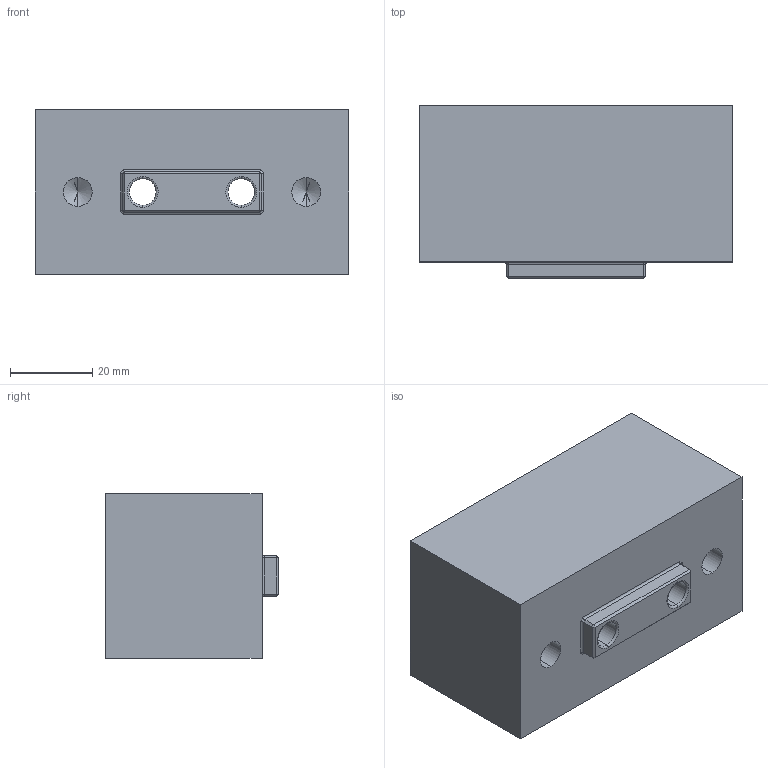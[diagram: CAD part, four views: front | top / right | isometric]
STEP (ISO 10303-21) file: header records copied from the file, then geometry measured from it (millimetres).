
FILE_DESCRIPTION (( 'STEP AP214' ), '1' );
FILE_NAME ('HMVJ-3A, S [05-0225, 05-0226 ref].step', '2023-05-02T20:43:52', ( '' ), ( '' ), 'SwSTEP 2.0', 'SolidWorks 2022', '' );
FILE_SCHEMA (( 'AUTOMOTIVE_DESIGN' ));
Length unit declared in the file: millimetre
Products named in the file (1): HMVJ-3A, S [05-0225, 05-0226 ref]
Bounding box: 76.2 x 42.1 x 40 mm (x, y, z)
Volume: 110224.4 mm3; surface area: 18209.9 mm2
Topology: 1 solids, 1 shells, 53 faces, 116 edges, 66 vertices
Faces by surface type: plane 25, cylinder 20, bspline 4, cone 4
Entity records: 1838 total; most frequent: CARTESIAN_POINT 536, DIRECTION 228, ORIENTED_EDGE 224, EDGE_CURVE 112, AXIS2_PLACEMENT_3D 78, VECTOR 72, LINE 72, VERTEX_POINT 66
